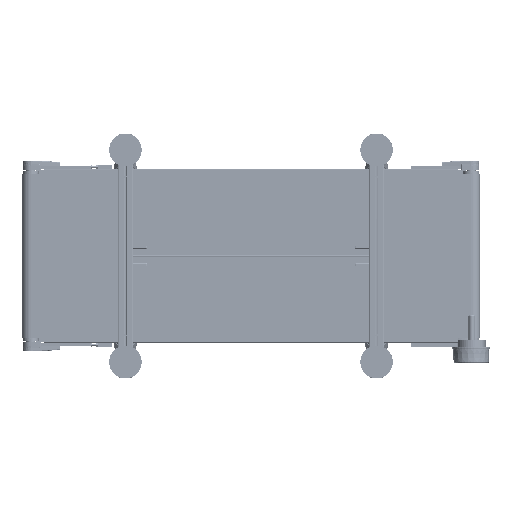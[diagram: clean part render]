
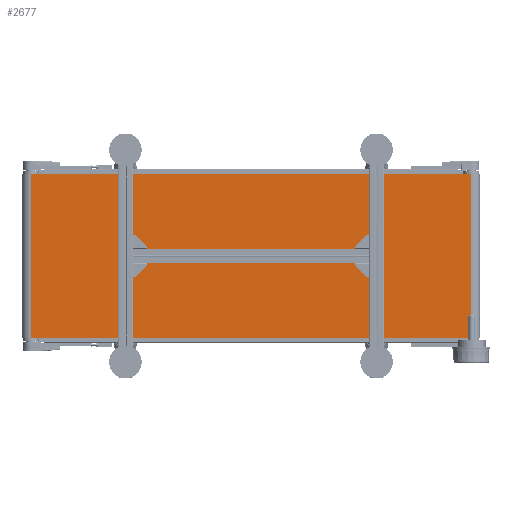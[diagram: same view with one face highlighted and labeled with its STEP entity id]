
A CAD part, front view. The second image highlights one B-rep face of the part: STEP entity #2677.
In plain terms, the highlighted planar face has unit normal (0, -1, 0).
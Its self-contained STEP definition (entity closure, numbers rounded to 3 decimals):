
#22 = ORIENTED_EDGE ( 'NONE', *, *, #202422, .T. ) ;
#2677 = ADVANCED_FACE ( 'NONE', ( #53233 ), #115926, .F. ) ;
#4398 = ORIENTED_EDGE ( 'NONE', *, *, #123908, .T. ) ;
#18769 = CARTESIAN_POINT ( 'NONE',  ( 675., -27., 250. ) ) ;
#20906 = CARTESIAN_POINT ( 'NONE',  ( -675., -27., -250. ) ) ;
#27293 = VERTEX_POINT ( 'NONE', #86508 ) ;
#27627 = CARTESIAN_POINT ( 'NONE',  ( -675., -27., 250. ) ) ;
#28640 = VERTEX_POINT ( 'NONE', #20906 ) ;
#36260 = VECTOR ( 'NONE', #112013, 1000. ) ;
#44552 = ORIENTED_EDGE ( 'NONE', *, *, #174927, .F. ) ;
#46116 = EDGE_LOOP ( 'NONE', ( #4398, #44552, #96923, #22 ) ) ;
#51736 = DIRECTION ( 'NONE',  ( 0., 0., -1. ) ) ;
#53233 = FACE_OUTER_BOUND ( 'NONE', #46116, .T. ) ;
#55052 = VECTOR ( 'NONE', #207740, 1000. ) ;
#71618 = EDGE_CURVE ( 'NONE', #93441, #27293, #97691, .T. ) ;
#78761 = DIRECTION ( 'NONE',  ( 1., 0., 0. ) ) ;
#82925 = CARTESIAN_POINT ( 'NONE',  ( -675., -27., 250. ) ) ;
#83364 = VERTEX_POINT ( 'NONE', #191047 ) ;
#86508 = CARTESIAN_POINT ( 'NONE',  ( 675., -27., 250. ) ) ;
#93441 = VERTEX_POINT ( 'NONE', #204492 ) ;
#96923 = ORIENTED_EDGE ( 'NONE', *, *, #71618, .F. ) ;
#97691 = LINE ( 'NONE', #164697, #36260 ) ;
#107598 = VECTOR ( 'NONE', #51736, 1000. ) ;
#112013 = DIRECTION ( 'NONE',  ( 1., 0., 0. ) ) ;
#112836 = LINE ( 'NONE', #144696, #182680 ) ;
#115926 = PLANE ( 'NONE',  #173514 ) ;
#123908 = EDGE_CURVE ( 'NONE', #28640, #83364, #112836, .T. ) ;
#126512 = LINE ( 'NONE', #27627, #55052 ) ;
#144696 = CARTESIAN_POINT ( 'NONE',  ( -675., -27., -250. ) ) ;
#151658 = LINE ( 'NONE', #18769, #107598 ) ;
#164697 = CARTESIAN_POINT ( 'NONE',  ( -675., -27., 250. ) ) ;
#173514 = AXIS2_PLACEMENT_3D ( 'NONE', #82925, #201473, #187167 ) ;
#174927 = EDGE_CURVE ( 'NONE', #27293, #83364, #151658, .T. ) ;
#182680 = VECTOR ( 'NONE', #78761, 1000. ) ;
#187167 = DIRECTION ( 'NONE',  ( 0., 0., 1. ) ) ;
#191047 = CARTESIAN_POINT ( 'NONE',  ( 675., -27., -250. ) ) ;
#201473 = DIRECTION ( 'NONE',  ( 0., 1., 0. ) ) ;
#202422 = EDGE_CURVE ( 'NONE', #93441, #28640, #126512, .T. ) ;
#204492 = CARTESIAN_POINT ( 'NONE',  ( -675., -27., 250. ) ) ;
#207740 = DIRECTION ( 'NONE',  ( 0., 0., -1. ) ) ;
